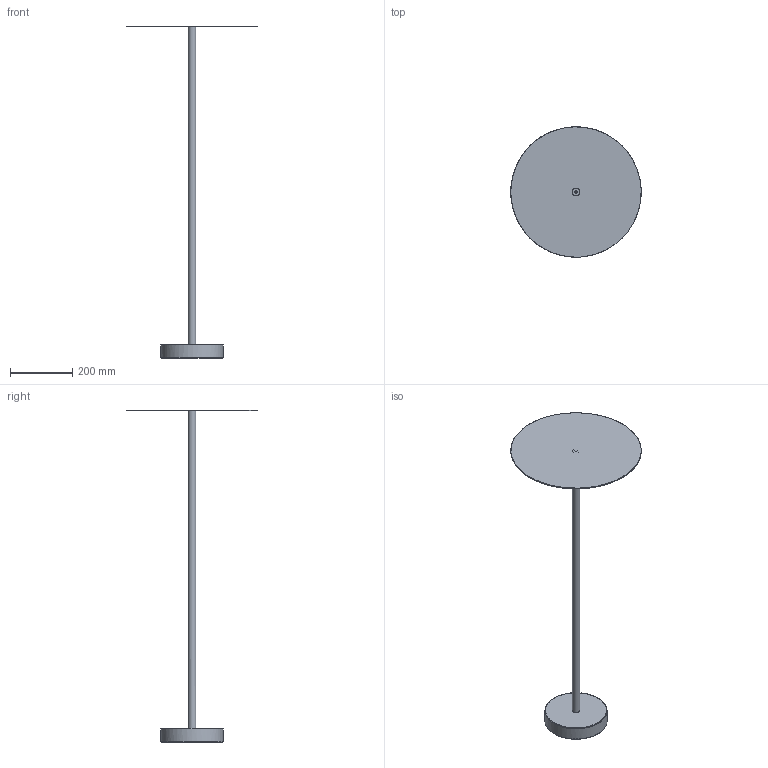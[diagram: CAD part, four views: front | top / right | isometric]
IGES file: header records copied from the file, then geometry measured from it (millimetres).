
Global section: file name: /Users/matteo_studiocdb02/Desktop/Danese 3/SPACE 3d (2)/Bincan table system/Bincan tavolino L/Bincan table L 3D.igs; native system: Rhinoceros ( Dec 18 2012 ); preprocessor: Trout Lake IGES 012 Dec 18 2012; date: 130107.160533; units: millimetre
Bounding box: 419.81 x 419.9 x 1069 mm (x, y, z)
Surface area: 535034.4 mm2 (no closed solid volume)
Topology: 0 solids, 0 shells, 18 faces, 828 edges, 816 vertices
Faces by surface type: bspline 18
